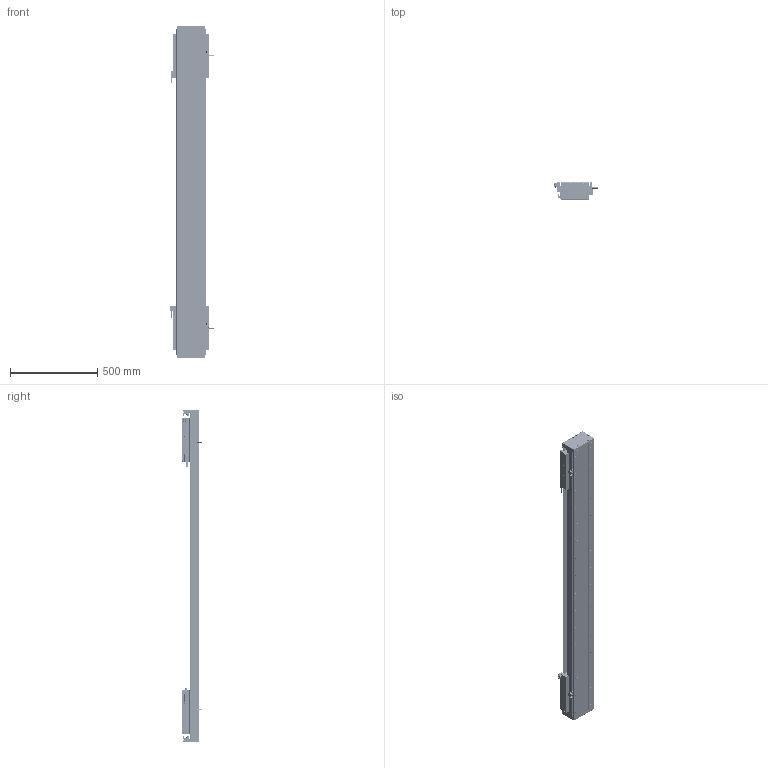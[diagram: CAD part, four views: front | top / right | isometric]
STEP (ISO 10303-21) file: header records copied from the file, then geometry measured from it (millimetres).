
FILE_DESCRIPTION (( 'STEP AP203' ), '1' );
FILE_NAME ('DA-C165-2-C3-T1280-C010-0.2 直线电机.STEP', '2023-06-13T09:25:14', ( '微软用户' ), ( '微软中国' ), 'SwSTEP 2.0', 'SolidWorks 2019', '' );
FILE_SCHEMA (( 'CONFIG_CONTROL_DESIGN' ));
Length unit declared in the file: millimetre
Products named in the file (22): 复件 DA165-GD-1860-002-00 钢带盖板^复件 CU165钢带组件_DA-C165-C3-T-C010-0.2-N 直线电机; 复件 DA165-GD-DG-H-00 端盖^复件 CU165钢带组件_DA-C165-C3-T-C010-0.2-N 直线电机; DA-C165-2-C3-T1280-C010-0.2 眻盄萇儂; 葩璃 CKM01-W075-TRL^DA-C165-C3-T-C010-0.2-N 眻盄萇儂; 葩璃 PM-T45^DA-C165-C3-T-C010-0.2-N 眻盄萇儂; 复件 六角薄螺母 M3^DA-C165-C3-T-C010-0.2-N 直线电机_GB_FASTENER_NUT_STNAB M3-C; IU-CU165-L 菁釱絳寢; 复件 DA165-GDLK-00 钢带拉块^复件 CU165钢带组件_DA-C165-C3-T-C010-0.2-N 直线电机; 葩璃 DA95-GT-T-00^IU-CU165-L 菁釱絳寢_T; 葩璃 PM-Y45^DA-C165-C3-T-C010-0.2-N 眻盄萇儂; 复件 DA165-GDYK-00 钢带压块^复件 CU165钢带组件_DA-C165-C3-T-C010-0.2-N 直线电机; 珨极趙賑雄怢啣C3-wf; 葩璃 CKM03-W075-C1C2-TP-3.0^DA-C165-C3-T-C010-0.2-N 眻盄萇儂; 复件 DMA-010-0.2 读数头^DA-C165-C3-T-C010-0.2-N 直线电机; 复件 CU165钢带组件^DA-C165-C3-T-C010-0.2-N 直线电机; 复件 DKW-HXJ-JY-00 缓冲橡胶^DA-C165-C3-T-C010-0.2-N 直线电机; 复件 66338-1000-006-00 光电感应块^DA-C165-C3-T-C010-0.2-N 直线电机; 复件 CU165 底座^IU-CU165-L 底座导轨_L1860; 复件 DA165-GYP-00 光电感应片^DA-C165-C3-T-C010-0.2-N 直线电机; 复件 XD-U-02L 磁栅尺^DA-C165-C3-T-C010-0.2-N 直线电机_T; 复件 DA95-HXJ-00 缓冲橡胶^DA-C165-C3-T-C010-0.2-N 直线电机; 复件 DA126-GYP-ZJ-00 中间光电感应片^DA-C165-C3-T-C010-0.2-N 直线电机
Assembly tree (45 placements, depth 3):
  DA-C165-2-C3-T1280-C010-0.2 眻盄萇儂
    IU-CU165-L 菁釱絳寢
      复件 CU165 底座^IU-CU165-L 底座导轨_L1860
      葩璃 DA95-GT-T-00^IU-CU165-L 菁釱絳寢_T  x4
    复件 XD-U-02L 磁栅尺^DA-C165-C3-T-C010-0.2-N 直线电机_T
    葩璃 PM-T45^DA-C165-C3-T-C010-0.2-N 眻盄萇儂  x4
    葩璃 CKM01-W075-TRL^DA-C165-C3-T-C010-0.2-N 眻盄萇儂
    复件 CU165钢带组件^DA-C165-C3-T-C010-0.2-N 直线电机
      复件 DA165-GD-DG-H-00 端盖^复件 CU165钢带组件_DA-C165-C3-T-C010-0.2-N 直线电机  x2
      复件 DA165-GDYK-00 钢带压块^复件 CU165钢带组件_DA-C165-C3-T-C010-0.2-N 直线电机  x2
      复件 DA165-GD-1860-002-00 钢带盖板^复件 CU165钢带组件_DA-C165-C3-T-C010-0.2-N 直线电机
      复件 DA165-GDLK-00 钢带拉块^复件 CU165钢带组件_DA-C165-C3-T-C010-0.2-N 直线电机  x2
    复件 DA95-HXJ-00 缓冲橡胶^DA-C165-C3-T-C010-0.2-N 直线电机  x4
    复件 DMA-010-0.2 读数头^DA-C165-C3-T-C010-0.2-N 直线电机  x2
    复件 DA165-GYP-00 光电感应片^DA-C165-C3-T-C010-0.2-N 直线电机  x2
    复件 66338-1000-006-00 光电感应块^DA-C165-C3-T-C010-0.2-N 直线电机
    葩璃 PM-Y45^DA-C165-C3-T-C010-0.2-N 眻盄萇儂
    复件 DA126-GYP-ZJ-00 中间光电感应片^DA-C165-C3-T-C010-0.2-N 直线电机
    葩璃 CKM03-W075-C1C2-TP-3.0^DA-C165-C3-T-C010-0.2-N 眻盄萇儂  x2
    复件 DKW-HXJ-JY-00 缓冲橡胶^DA-C165-C3-T-C010-0.2-N 直线电机  x2
    复件 六角薄螺母 M3^DA-C165-C3-T-C010-0.2-N 直线电机_GB_FASTENER_NUT_STNAB M3-C  x8
    珨极趙賑雄怢啣C3-wf  x2
Bounding box: 247.2 x 111.45 x 1900 mm (x, y, z)
Volume: 13794966.2 mm3; surface area: 3747412.3 mm2
Topology: 121 solids, 221 shells, 6205 faces, 16554 edges, 10228 vertices
Faces by surface type: cylinder 3142, plane 1995, cone 980, torus 80, sphere 8
Entity records: 130348 total; most frequent: CARTESIAN_POINT 33075, DIRECTION 19754, ORIENTED_EDGE 19692, EDGE_CURVE 9846, AXIS2_PLACEMENT_3D 7499, VERTEX_POINT 6382, LINE 4756, VECTOR 4756
